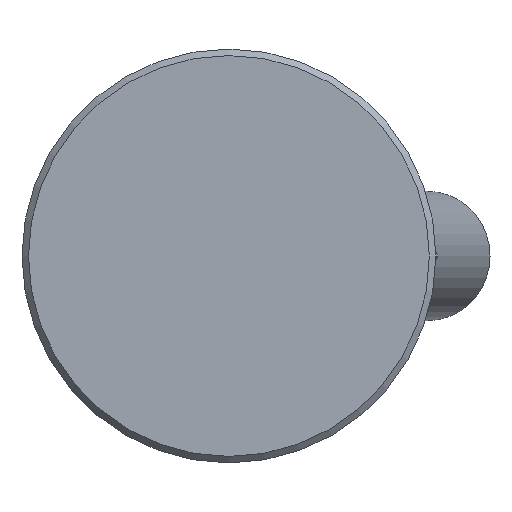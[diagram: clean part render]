
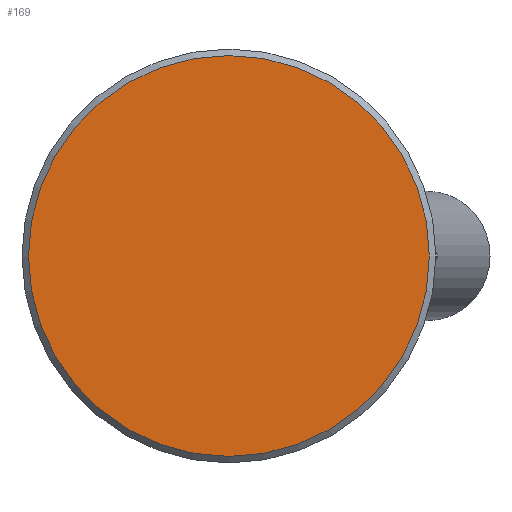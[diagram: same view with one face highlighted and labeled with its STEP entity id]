
A CAD part, front view. The second image highlights one B-rep face of the part: STEP entity #169.
In plain terms, the highlighted planar face has unit normal (0, -1, 0).
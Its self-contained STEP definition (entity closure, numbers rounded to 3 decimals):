
#169 = ADVANCED_FACE( '', ( #337 ), #338, .F. );
#337 = FACE_OUTER_BOUND( '', #519, .T. );
#338 = PLANE( '', #520 );
#519 = EDGE_LOOP( '', ( #758 ) );
#520 = AXIS2_PLACEMENT_3D( '', #759, #760, #761 );
#758 = ORIENTED_EDGE( '', *, *, #1028, .T. );
#759 = CARTESIAN_POINT( '', ( 15.5, 0., 0. ) );
#760 = DIRECTION( '', ( 0., 1., 0. ) );
#761 = DIRECTION( '', ( 0., 0., 1. ) );
#1028 = EDGE_CURVE( '', #1185, #1185, #1186, .T. );
#1185 = VERTEX_POINT( '', #1416 );
#1186 = CIRCLE( '', #1417, 15.5 );
#1416 = CARTESIAN_POINT( '', ( 0., 0., -15.5 ) );
#1417 = AXIS2_PLACEMENT_3D( '', #1848, #1849, #1850 );
#1848 = CARTESIAN_POINT( '', ( 0., 0., 0. ) );
#1849 = DIRECTION( '', ( 0., -1., 0. ) );
#1850 = DIRECTION( '', ( 0., 0., -1. ) );
